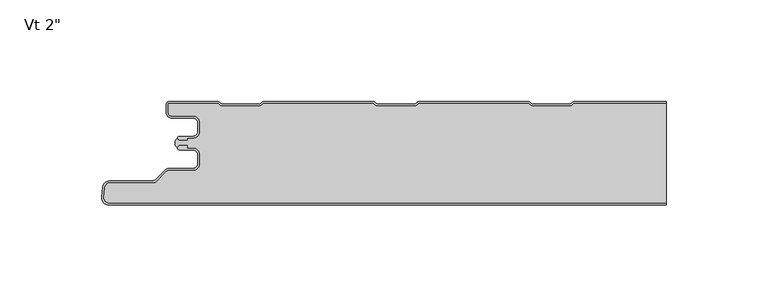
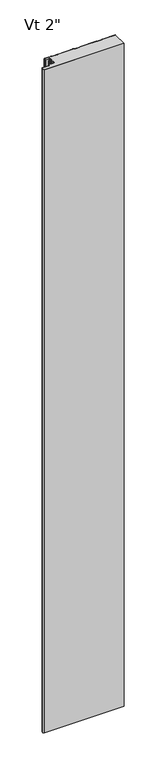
"""IFC4 building model written with IfcOpenShell, lengths in millimetres: plate geometry."""

from ifc_helpers import new_model, si_unit, point, frame, frame_2d, origin, origin_with_axes, place, context, project, spatial, polyline, circle_curve, trimmed, segment, composite_curve, outline, extrude, source, transform, mapped, element, save
from ifc_brep_helpers import plane_surface, cylinder_surface, revolved_surface, advanced_brep


def plate_294066a2(model_context):
    return source(origin(), model_context, "Body", "SolidModel", [
        advanced_brep(
        [(-119.3683, -22.4708624, 2400.0), (-118.167176, -21.3013877, 2400.0), (-114.4087826, -21.3013877, 2400.0), (-114.4087826, -22.6998666, 2400.0), (-111.7096715, -22.6998666, 2400.0), (-108.3596762, -26.0498619, 2400.0), (-108.3596762, -30.4498531, 2400.0), (-111.7096715, -33.7998484, 2400.0), (-123.5205606, -33.7998484, 2400.0), (-124.7226383, -34.2977653, 2400.0), (-130.2247094, -39.7998364, 2400.0), (-152.3198391, -39.7998364, 2400.0), (-154.9765707, -42.0184384, 2400.0), (-155.4125697, -47.0002592, 2400.0), (-152.8521175, -49.7945842, 2400.0), (120.3999998, -49.7999874, 2400.0), (120.3999998, -1.0063317, 2400.0), (75.179706, -1.0063317, 2400.0), (73.7940731, -2.2065624, 2400.0), (54.4189068, -2.2065624, 2400.0), (53.0332738, -1.0063317, 2400.0), (-1.0201416, -1.0063317, 2400.0), (-2.4057745, -2.2065624, 2400.0), (-21.7809408, -2.2065624, 2400.0), (-23.1665738, -1.0063317, 2400.0), (-77.2199892, -1.0063317, 2400.0), (-78.6056221, -2.2065624, 2400.0), (-97.9807884, -2.2065624, 2400.0), (-99.3664214, -1.0063317, 2400.0), (-123.8662504, -1.0063317, 2400.0), (-123.8662504, -5.2378707, 2400.0), (-122.0962562, -7.0078649, 2400.0), (-111.6762777, -7.0078649, 2400.0), (-108.3762818, -10.3078607, 2400.0), (-108.3762818, -14.707852, 2400.0), (-111.6762775, -18.0078476, 2400.0), (-114.3684873, -18.0078476, 2400.0), (-114.3684873, -19.0078422, 2400.0), (-118.368691, -19.0078422, 2400.0), (-119.3686882, -18.0078509, 2400.0), (-120.3999998, -19.0391626, 2400.0), (-120.3999998, -21.4391626, 2400.0), (-119.3683, -22.4708624, 0.0), (-120.3999998, -21.4391626, 0.0), (-120.3999998, -19.0391626, 0.0), (-119.3686882, -18.0078509, 0.0), (-118.368691, -19.0078422, 0.0), (-114.3684873, -19.0078422, 0.0), (-114.3684873, -18.0078476, 0.0), (-111.6762775, -18.0078476, 0.0), (-108.3762818, -14.707852, 0.0), (-108.3762818, -10.3078607, 0.0), (-111.6762777, -7.0078649, 0.0), (-122.0962562, -7.0078649, 0.0), (-123.8662504, -5.2378707, 0.0), (-123.8662504, -1.0063317, 0.0), (-99.3664214, -1.0063317, 0.0), (-97.9807884, -2.2065624, 0.0), (-78.6056221, -2.2065624, 0.0), (-77.2199892, -1.0063317, 0.0), (-23.1665738, -1.0063317, 0.0), (-21.7809408, -2.2065624, 0.0), (-2.4057745, -2.2065624, 0.0), (-1.0201416, -1.0063317, 0.0), (53.0332738, -1.0063317, 0.0), (54.4189068, -2.2065624, 0.0), (73.7940731, -2.2065624, 0.0), (75.179706, -1.0063317, 0.0), (120.3999998, -1.0063317, 0.0), (120.3999998, -49.7999874, 0.0), (-152.8521175, -49.7999874, 0.0), (-155.4125697, -47.0002592, 0.0), (-154.9765707, -42.0184384, 0.0), (-152.3198391, -39.7998364, 0.0), (-130.2247094, -39.7998364, 0.0), (-124.7226383, -34.2977653, 0.0), (-123.5205606, -33.7998484, 0.0), (-111.7096715, -33.7998484, 0.0), (-108.3596762, -30.4498531, 0.0), (-108.3596762, -26.0498619, 0.0), (-111.7096715, -22.6998666, 0.0), (-114.4087826, -22.6998666, 0.0), (-114.4087826, -21.3013877, 0.0), (-118.167176, -21.3013877, 0.0)],
        [
            (0, 1, circle_curve(frame((-118.1686906, -22.5013843, 2400.0), z_axis=(0.0, 0.0, -1.0), x_axis=(-1.0, 0.0, 0.0)), 1.1999976)),
            (1, 2),
            (2, 3),
            (3, 4),
            (4, 5, circle_curve(frame((-111.7096715, -26.0498619, 2400.0), z_axis=(0.0, 0.0, -1.0), x_axis=(-1.0, 0.0, 0.0)), 3.3499953)),
            (5, 6),
            (6, 7, circle_curve(frame((-111.7096715, -30.4498531, 2400.0), z_axis=(0.0, 0.0, -1.0), x_axis=(-1.0, 0.0, 0.0)), 3.3499953)),
            (7, 8),
            (8, 9, circle_curve(frame((-123.5205606, -35.499843, 2400.0), z_axis=(0.0, 0.0, 1.0), x_axis=(-1.0, 0.0, 0.0)), 1.6999946)),
            (9, 10),
            (10, 11),
            (11, 12, circle_curve(frame((-152.3198391, -42.499829, 2400.0), z_axis=(0.0, 0.0, 1.0), x_axis=(-1.0, 0.0, 0.0)), 2.6999926)),
            (12, 13),
            (13, 14, circle_curve(frame((-152.8521175, -47.2243449, 2400.0), z_axis=(0.0, 0.0, 1.0), x_axis=(-1.0, 0.0, 0.0)), 2.5702393)),
            (14, 15),
            (15, 16),
            (16, 17),
            (17, 18),
            (18, 19),
            (19, 20),
            (20, 21),
            (21, 22),
            (22, 23),
            (23, 24),
            (24, 25),
            (25, 26),
            (26, 27),
            (27, 28),
            (28, 29),
            (29, 30),
            (30, 31, circle_curve(frame((-122.0962562, -5.2378707, 2400.0), z_axis=(0.0, 0.0, 1.0), x_axis=(-1.0, 0.0, 0.0)), 1.7699942)),
            (31, 32),
            (32, 33, circle_curve(frame((-111.6762777, -10.3078607, 2400.0), z_axis=(0.0, 0.0, -1.0), x_axis=(-1.0, 0.0, 0.0)), 3.2999959)),
            (33, 34),
            (34, 35, circle_curve(frame((-111.6762775, -14.707852, 2400.0), z_axis=(0.0, 0.0, -1.0), x_axis=(-1.0, 0.0, 0.0)), 3.2999957)),
            (35, 36),
            (36, 37),
            (37, 38),
            (38, 39, circle_curve(frame((-118.368691, -18.007845, 2400.0), z_axis=(0.0, 0.0, -1.0), x_axis=(-1.0, 0.0, 0.0)), 0.9999972)),
            (39, 40),
            (40, 41),
            (41, 0),
            (42, 43),
            (43, 44),
            (44, 45),
            (45, 46, circle_curve(frame((-118.368691, -18.007845, 0.0), z_axis=(0.0, 0.0, 1.0), x_axis=(-1.0, 0.0, 0.0)), 0.9999972)),
            (46, 47),
            (47, 48),
            (48, 49),
            (49, 50, circle_curve(frame((-111.6762775, -14.707852, 0.0), z_axis=(0.0, 0.0, 1.0), x_axis=(-1.0, 0.0, 0.0)), 3.2999957)),
            (50, 51),
            (51, 52, circle_curve(frame((-111.6762777, -10.3078607, 0.0), z_axis=(0.0, 0.0, 1.0), x_axis=(-1.0, 0.0, 0.0)), 3.2999959)),
            (52, 53),
            (53, 54, circle_curve(frame((-122.0962562, -5.2378707, 0.0), z_axis=(0.0, 0.0, -1.0), x_axis=(-1.0, 0.0, 0.0)), 1.7699942)),
            (54, 55),
            (55, 56),
            (56, 57),
            (57, 58),
            (58, 59),
            (59, 60),
            (60, 61),
            (61, 62),
            (62, 63),
            (63, 64),
            (64, 65),
            (65, 66),
            (66, 67),
            (67, 68),
            (68, 69),
            (69, 70),
            (70, 71, circle_curve(frame((-152.8521175, -47.2243449, 0.0), z_axis=(0.0, 0.0, -1.0), x_axis=(-1.0, 0.0, 0.0)), 2.5702393)),
            (71, 72),
            (72, 73, circle_curve(frame((-152.3198391, -42.499829, 0.0), z_axis=(0.0, 0.0, -1.0), x_axis=(-1.0, 0.0, 0.0)), 2.6999926)),
            (73, 74),
            (74, 75),
            (75, 76, circle_curve(frame((-123.5205606, -35.499843, 0.0), z_axis=(0.0, 0.0, -1.0), x_axis=(-1.0, 0.0, 0.0)), 1.6999946)),
            (76, 77),
            (77, 78, circle_curve(frame((-111.7096715, -30.4498531, 0.0), z_axis=(0.0, 0.0, 1.0), x_axis=(-1.0, 0.0, 0.0)), 3.3499953)),
            (78, 79),
            (79, 80, circle_curve(frame((-111.7096715, -26.0498619, 0.0), z_axis=(0.0, 0.0, 1.0), x_axis=(-1.0, 0.0, 0.0)), 3.3499953)),
            (80, 81),
            (81, 82),
            (82, 83),
            (83, 42, circle_curve(frame((-118.1686906, -22.5013843, 0.0), z_axis=(0.0, 0.0, 1.0), x_axis=(-1.0, 0.0, 0.0)), 1.1999976)),
            (15, 69),
            (68, 16),
            (41, 43),
            (42, 0),
            (40, 44),
            (39, 45),
            (38, 46),
            (37, 47),
            (36, 48),
            (35, 49),
            (34, 50),
            (33, 51),
            (32, 52),
            (31, 53),
            (30, 54),
            (29, 55),
            (14, 70),
            (13, 71),
            (12, 72),
            (11, 73),
            (10, 74),
            (9, 75),
            (8, 76),
            (7, 77),
            (6, 78),
            (5, 79),
            (4, 80),
            (3, 81),
            (2, 82),
            (1, 83),
            (28, 56),
            (27, 57),
            (26, 58),
            (25, 59),
            (24, 60),
            (23, 61),
            (22, 62),
            (21, 63),
            (20, 64),
            (19, 65),
            (18, 66),
            (17, 67),
        ],
        [
            plane_surface(frame((184.4000002, -49.7999874, 2400.0), z_axis=(0.0, 0.0, 1.0), x_axis=(0.0, -1.0, 0.0))),
            plane_surface(frame((184.4000002, -49.7999874, 0.0), z_axis=(0.0, 0.0, -1.0), x_axis=(0.0, -1.0, 0.0))),
            plane_surface(frame((120.3999998, -60.7999874, 2400.0), z_axis=(1.0, 0.0, 0.0), x_axis=(0.0, 0.0, -1.0))),
            plane_surface(frame((-119.3683, -22.4708624, 2400.0), z_axis=(-0.707106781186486, -0.7071067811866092, 0.0), x_axis=(0.0, 0.0, -1.0))),
            plane_surface(frame((-120.3999998, -21.4391626, 2400.0), z_axis=(-1.0, 0.0, 0.0), x_axis=(0.0, 0.0, -1.0))),
            plane_surface(frame((-120.3999998, -19.0391626, 2400.0), z_axis=(-0.7071067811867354, 0.7071067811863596, 0.0), x_axis=(0.0, 0.0, -1.0))),
            revolved_surface(polyline([(-119.3686882, -18.007845, 0.0), (-119.3686882, -18.007845, 2400.0)]), (-118.368691, -18.007845, 2400.0), (0.0, 0.0, -1.0)),
            plane_surface(frame((-118.368691, -19.0078422, 2400.0), z_axis=(0.0, 1.0, 0.0), x_axis=(0.0, 0.0, -1.0))),
            plane_surface(frame((-114.3684873, -19.0078422, 2400.0), z_axis=(-1.0, 0.0, 0.0), x_axis=(0.0, 0.0, -1.0))),
            plane_surface(frame((-114.3684873, -18.0078476, 2400.0), z_axis=(0.0, 1.0, 0.0), x_axis=(0.0, 0.0, -1.0))),
            revolved_surface(polyline([(-114.9762732, -14.707852, 0.0), (-114.9762732, -14.707852, 2400.0)]), (-111.6762775, -14.707852, 2400.0), (0.0, 0.0, -1.0)),
            plane_surface(frame((-108.3762818, -14.707852, 2400.0), z_axis=(-1.0, 0.0, 0.0), x_axis=(0.0, 0.0, -1.0))),
            revolved_surface(polyline([(-114.9762736, -10.3078607, 0.0), (-114.9762736, -10.3078607, 2400.0)]), (-111.6762777, -10.3078607, 2400.0), (0.0, 0.0, -1.0)),
            plane_surface(frame((-111.6762777, -7.0078649, 2400.0), z_axis=(0.0, -1.0, 0.0), x_axis=(0.0, 0.0, -1.0))),
            cylinder_surface(frame((-122.0962562, -5.2378707, 2400.0), z_axis=(0.0, 0.0, 1.0), x_axis=(-1.0, 0.0, 0.0)), 1.7699942),
            plane_surface(frame((-123.8662504, -5.2378707, 2400.0), z_axis=(-1.0, 0.0, 0.0), x_axis=(0.0, 0.0, -1.0))),
            plane_surface(frame((440.7156221, -49.7999874, 2400.0), z_axis=(0.0, -1.0, 0.0), x_axis=(0.0, 0.0, -1.0))),
            cylinder_surface(frame((-152.8521175, -47.2243449, 2400.0), z_axis=(0.0, 0.0, 1.0), x_axis=(-1.0, 0.0, 0.0)), 2.5702393),
            plane_surface(frame((-155.4125697, -47.0002592, 2400.0), z_axis=(-0.9961921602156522, 0.0871847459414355, 0.0), x_axis=(0.0, 0.0, -1.0))),
            cylinder_surface(frame((-152.3198391, -42.499829, 2400.0), z_axis=(0.0, 0.0, 1.0), x_axis=(-1.0, 0.0, 0.0)), 2.6999926),
            plane_surface(frame((-152.3198391, -39.7998364, 2400.0), z_axis=(0.0, 1.0, 0.0), x_axis=(0.0, 0.0, -1.0))),
            plane_surface(frame((-130.2247094, -39.7998364, 2400.0), z_axis=(-0.7071067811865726, 0.7071067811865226, 0.0), x_axis=(0.0, 0.0, -1.0))),
            cylinder_surface(frame((-123.5205606, -35.499843, 2400.0), z_axis=(0.0, 0.0, 1.0), x_axis=(-1.0, 0.0, 0.0)), 1.6999946),
            plane_surface(frame((-123.5205606, -33.7998484, 2400.0), z_axis=(0.0, 1.0, 0.0), x_axis=(0.0, 0.0, -1.0))),
            revolved_surface(polyline([(-115.0596668, -30.4498531, 0.0), (-115.0596668, -30.4498531, 2400.0)]), (-111.7096715, -30.4498531, 2400.0), (0.0, 0.0, -1.0)),
            plane_surface(frame((-108.3596762, -30.4498531, 2400.0), z_axis=(-1.0, 0.0, 0.0), x_axis=(0.0, 0.0, -1.0))),
            revolved_surface(polyline([(-115.0596668, -26.0498619, 0.0), (-115.0596668, -26.0498619, 2400.0)]), (-111.7096715, -26.0498619, 2400.0), (0.0, 0.0, -1.0)),
            plane_surface(frame((-111.7096715, -22.6998666, 2400.0), z_axis=(0.0, -1.0, 0.0), x_axis=(0.0, 0.0, -1.0))),
            plane_surface(frame((-114.4087826, -22.6998666, 2400.0), z_axis=(-1.0, 0.0, 0.0), x_axis=(0.0, 0.0, -1.0))),
            plane_surface(frame((-114.4087826, -21.3013877, 2400.0), z_axis=(0.0, -1.0, 0.0), x_axis=(0.0, 0.0, -1.0))),
            revolved_surface(polyline([(-119.36868820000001, -22.5013843, 0.0), (-119.36868820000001, -22.5013843, 2400.0)]), (-118.1686906, -22.5013843, 2400.0), (0.0, 0.0, -1.0)),
            plane_surface(frame((-123.8662504, -1.0063317, 2400.0), z_axis=(0.0, 1.0, 0.0), x_axis=(0.0, 0.0, -1.0))),
            plane_surface(frame((-99.3664214, -1.0063317, 2400.0), z_axis=(0.6547276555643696, 0.7558648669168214, 0.0), x_axis=(0.0, 0.0, -1.0))),
            plane_surface(frame((-97.9807884, -2.2065624, 2400.0), z_axis=(0.0, 1.0, 0.0), x_axis=(0.0, 0.0, -1.0))),
            plane_surface(frame((-78.6056221, -2.2065624, 2400.0), z_axis=(-0.6547276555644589, 0.7558648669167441, 0.0), x_axis=(0.0, 0.0, -1.0))),
            plane_surface(frame((-77.2199892, -1.0063317, 2400.0), z_axis=(0.0, 1.0, 0.0), x_axis=(0.0, 0.0, -1.0))),
            plane_surface(frame((-23.1665738, -1.0063317, 2400.0), z_axis=(0.654727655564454, 0.7558648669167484, 0.0), x_axis=(0.0, 0.0, -1.0))),
            plane_surface(frame((-21.7809408, -2.2065624, 2400.0), z_axis=(0.0, 1.0, 0.0), x_axis=(0.0, 0.0, -1.0))),
            plane_surface(frame((-2.4057745, -2.2065624, 2400.0), z_axis=(-0.6547276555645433, 0.7558648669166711, 0.0), x_axis=(0.0, 0.0, -1.0))),
            plane_surface(frame((-1.0201416, -1.0063317, 2400.0), z_axis=(0.0, 1.0, 0.0), x_axis=(0.0, 0.0, -1.0))),
            plane_surface(frame((53.0332738, -1.0063317, 2400.0), z_axis=(0.6547276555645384, 0.7558648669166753, 0.0), x_axis=(0.0, 0.0, -1.0))),
            plane_surface(frame((54.4189068, -2.2065624, 2400.0), z_axis=(0.0, 1.0, 0.0), x_axis=(0.0, 0.0, -1.0))),
            plane_surface(frame((73.7940731, -2.2065624, 2400.0), z_axis=(-0.654727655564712, 0.755864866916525, 0.0), x_axis=(0.0, 0.0, -1.0))),
            plane_surface(frame((75.179706, -1.0063317, 2400.0), z_axis=(0.0, 1.0, 0.0), x_axis=(0.0, 0.0, -1.0))),
        ],
        [
            (0, [[1, 2, 3, 4, 5, 6, 7, 8, 9, 10, 11, 12, 13, 14, 15, 16, 17, 18, 19, 20, 21, 22, 23, 24, 25, 26, 27, 28, 29, 30, 31, 32, 33, 34, 35, 36, 37, 38, 39, 40, 41, 42]]),
            (1, [[43, 44, 45, 46, 47, 48, 49, 50, 51, 52, 53, 54, 55, 56, 57, 58, 59, 60, 61, 62, 63, 64, 65, 66, 67, 68, 69, 70, 71, 72, 73, 74, 75, 76, 77, 78, 79, 80, 81, 82, 83, 84]]),
            (2, [[85, -69, 86, -16]]),
            (3, [[87, -43, 88, -42]]),
            (4, [[89, -44, -87, -41]]),
            (5, [[90, -45, -89, -40]]),
            (6, [[91, -46, -90, -39]]),
            (7, [[92, -47, -91, -38]]),
            (8, [[93, -48, -92, -37]]),
            (9, [[94, -49, -93, -36]]),
            (10, [[95, -50, -94, -35]]),
            (11, [[96, -51, -95, -34]]),
            (12, [[97, -52, -96, -33]]),
            (13, [[98, -53, -97, -32]]),
            (14, [[99, -54, -98, -31]]),
            (15, [[100, -55, -99, -30]]),
            (16, [[-70, -85, -15, 101]]),
            (17, [[102, -71, -101, -14]]),
            (18, [[103, -72, -102, -13]]),
            (19, [[104, -73, -103, -12]]),
            (20, [[105, -74, -104, -11]]),
            (21, [[106, -75, -105, -10]]),
            (22, [[107, -76, -106, -9]]),
            (23, [[108, -77, -107, -8]]),
            (24, [[109, -78, -108, -7]]),
            (25, [[110, -79, -109, -6]]),
            (26, [[111, -80, -110, -5]]),
            (27, [[112, -81, -111, -4]]),
            (28, [[113, -82, -112, -3]]),
            (29, [[114, -83, -113, -2]]),
            (30, [[-88, -84, -114, -1]]),
            (31, [[115, -56, -100, -29]]),
            (32, [[116, -57, -115, -28]]),
            (33, [[117, -58, -116, -27]]),
            (34, [[118, -59, -117, -26]]),
            (35, [[119, -60, -118, -25]]),
            (36, [[120, -61, -119, -24]]),
            (37, [[121, -62, -120, -23]]),
            (38, [[122, -63, -121, -22]]),
            (39, [[123, -64, -122, -21]]),
            (40, [[124, -65, -123, -20]]),
            (41, [[125, -66, -124, -19]]),
            (42, [[126, -67, -125, -18]]),
            (43, [[-17, -86, -68, -126]]),
        ],
    ),
        advanced_brep(
        [(-118.368691, -17.0015034, 2400.0), (-119.3686883, -18.0015065, 2400.0), (-118.368691, -19.0014978, 2400.0), (-114.3684874, -19.0014979, 2400.0), (-114.3684874, -18.0015034, 2400.0), (-111.6762776, -18.0015034, 2400.0), (-108.3762819, -14.7015077, 2400.0), (-108.3762819, -10.3015164, 2400.0), (-111.6762774, -7.001521, 2400.0), (-122.0962563, -7.001521, 2400.0), (-123.8662505, -5.2315268, 2400.0), (-123.8662505, -0.9999791, 2400.0), (-99.3659738, -0.9999791, 2400.0), (-97.9803312, -2.2002182, 2400.0), (-78.6051649, -2.2002182, 2400.0), (-77.219532, -0.9999874, 2400.0), (-23.1661166, -0.9999874, 2400.0), (-21.7804836, -2.2002182, 2400.0), (-2.4053173, -2.2002182, 2400.0), (-1.0196844, -0.9999874, 2400.0), (53.033731, -0.9999874, 2400.0), (54.419364, -2.2002182, 2400.0), (73.7945303, -2.2002182, 2400.0), (75.1801632, -0.9999874, 2400.0), (120.3999998, -0.9999874, 2400.0), (120.3999998, 1.26e-05, 2400.0), (75.3293144, 1.26e-05, 2400.0), (74.4126975, -0.3417759, 2400.0), (73.4216499, -1.2002182, 2400.0), (54.7922444, -1.2002182, 2400.0), (53.8011968, -0.3417759, 2400.0), (52.8845799, 1.26e-05, 2400.0), (-0.8705332, 1.26e-05, 2400.0), (-1.7871501, -0.3417759, 2400.0), (-2.7781977, -1.2002182, 2400.0), (-21.4076032, -1.2002182, 2400.0), (-22.3986508, -0.3417759, 2400.0), (-23.3152677, 1.26e-05, 2400.0), (-77.0703808, 1.26e-05, 2400.0), (-77.9869977, -0.3417759, 2400.0), (-78.9780453, -1.2002182, 2400.0), (-97.6074508, -1.2002182, 2400.0), (-98.5984984, -0.3417759, 2400.0), (-99.5152067, 1.26e-05, 2400.0), (-123.4662543, 2.09e-05, 2400.0), (-124.8662505, -1.3999752, 2400.0), (-124.8662505, -5.2315268, 2400.0), (-122.0962563, -8.001521, 2400.0), (-111.6762774, -8.001521, 2400.0), (-109.3762819, -10.3015164, 2400.0), (-109.3762819, -14.7015077, 2400.0), (-111.6762776, -17.0015034, 2400.0), (-118.368691, -17.0015034, 0.0), (-111.6762776, -17.0015034, 0.0), (-109.3762819, -14.7015077, 0.0), (-109.3762819, -10.3015164, 0.0), (-111.6762774, -8.001521, 0.0), (-122.0962563, -8.001521, 0.0), (-124.8662505, -5.2315268, 0.0), (-124.8662505, -1.3999752, 0.0), (-123.4662543, 2.09e-05, 0.0), (-99.5151153, 2.09e-05, 0.0), (-98.5984984, -0.3417759, 0.0), (-97.6074508, -1.2002182, 0.0), (-78.9780453, -1.2002182, 0.0), (-77.9869977, -0.3417759, 0.0), (-77.0703808, 1.26e-05, 0.0), (-23.3152677, 1.26e-05, 0.0), (-22.3986508, -0.3417759, 0.0), (-21.4076032, -1.2002182, 0.0), (-2.7781977, -1.2002182, 0.0), (-1.7871501, -0.3417759, 0.0), (-0.8705332, 1.26e-05, 0.0), (52.8845799, 1.26e-05, 0.0), (53.8011968, -0.3417759, 0.0), (54.7922444, -1.2002182, 0.0), (73.4216499, -1.2002182, 0.0), (74.4126975, -0.3417759, 0.0), (75.3293144, 1.26e-05, 0.0), (120.3999998, 1.26e-05, 0.0), (120.3999998, -0.9999874, 0.0), (75.1801632, -0.9999874, 0.0), (73.7945303, -2.2002182, 0.0), (54.419364, -2.2002182, 0.0), (53.033731, -0.9999874, 0.0), (-1.0196844, -0.9999874, 0.0), (-2.4053173, -2.2002182, 0.0), (-21.7804836, -2.2002182, 0.0), (-23.1661166, -0.9999874, 0.0), (-77.219532, -0.9999874, 0.0), (-78.6051649, -2.2002182, 0.0), (-97.9803312, -2.2002182, 0.0), (-99.3659738, -0.9999791, 0.0), (-123.8662505, -0.9999791, 0.0), (-123.8662505, -5.2315268, 0.0), (-122.0962563, -7.001521, 0.0), (-111.6762774, -7.001521, 0.0), (-108.3762819, -10.3015164, 0.0), (-108.3762819, -14.7015077, 0.0), (-111.6762776, -18.0015034, 0.0), (-114.3684874, -18.0015034, 0.0), (-114.3684874, -19.0014979, 0.0), (-118.368691, -19.0014979, 0.0), (-119.3686882, -18.0015065, 0.0)],
        [
            (0, 1, circle_curve(frame((-118.368691, -18.0015006, 2400.0), z_axis=(0.0, 0.0, 1.0), x_axis=(1.0, 0.0, 0.0)), 0.9999973)),
            (1, 2, circle_curve(frame((-118.368691, -18.0015006, 2400.0), z_axis=(0.0, 0.0, 1.0), x_axis=(1.0, 0.0, 0.0)), 0.9999972)),
            (2, 3),
            (3, 4),
            (4, 5),
            (5, 6, circle_curve(frame((-111.6762776, -14.7015077, 2400.0), z_axis=(0.0, 0.0, 1.0), x_axis=(1.0, 0.0, 0.0)), 3.2999957)),
            (6, 7),
            (7, 8, circle_curve(frame((-111.6762774, -10.3015164, 2400.0), z_axis=(0.0, 0.0, 1.0), x_axis=(1.0, 0.0, 0.0)), 3.2999955)),
            (8, 9),
            (9, 10, circle_curve(frame((-122.0962563, -5.2315268, 2400.0), z_axis=(0.0, 0.0, -1.0), x_axis=(1.0, 0.0, 0.0)), 1.7699942)),
            (10, 11),
            (11, 12),
            (12, 13),
            (13, 14),
            (14, 15),
            (15, 16),
            (16, 17),
            (17, 18),
            (18, 19),
            (19, 20),
            (20, 21),
            (21, 22),
            (22, 23),
            (23, 24),
            (24, 25),
            (25, 26),
            (26, 27, circle_curve(frame((75.3293144, -1.3999846, 2400.0), z_axis=(0.0, 0.0, 1.0), x_axis=(1.0, 0.0, 0.0)), 1.3999972)),
            (27, 28),
            (28, 29),
            (29, 30),
            (30, 31, circle_curve(frame((52.8845799, -1.3999846, 2400.0), z_axis=(0.0, 0.0, 1.0), x_axis=(1.0, 0.0, 0.0)), 1.3999972)),
            (31, 32),
            (32, 33, circle_curve(frame((-0.8705332, -1.3999846, 2400.0), z_axis=(0.0, 0.0, 1.0), x_axis=(1.0, 0.0, 0.0)), 1.3999972)),
            (33, 34),
            (34, 35),
            (35, 36),
            (36, 37, circle_curve(frame((-23.3152677, -1.3999846, 2400.0), z_axis=(0.0, 0.0, 1.0), x_axis=(1.0, 0.0, 0.0)), 1.3999972)),
            (37, 38),
            (38, 39, circle_curve(frame((-77.0703808, -1.3999846, 2400.0), z_axis=(0.0, 0.0, 1.0), x_axis=(1.0, 0.0, 0.0)), 1.3999972)),
            (39, 40),
            (40, 41),
            (41, 42),
            (42, 43, circle_curve(frame((-99.5151153, -1.3999846, 2400.0), z_axis=(0.0, 0.0, 1.0), x_axis=(1.0, 0.0, 0.0)), 1.3999972)),
            (43, 44),
            (44, 45, circle_curve(frame((-123.4662543, -1.3999752, 2400.0), z_axis=(0.0, 0.0, 1.0), x_axis=(1.0, 0.0, 0.0)), 1.3999962)),
            (45, 46),
            (46, 47, circle_curve(frame((-122.0962563, -5.2315268, 2400.0), z_axis=(0.0, 0.0, 1.0), x_axis=(1.0, 0.0, 0.0)), 2.7699942)),
            (47, 48),
            (48, 49, circle_curve(frame((-111.6762774, -10.3015164, 2400.0), z_axis=(0.0, 0.0, -1.0), x_axis=(1.0, 0.0, 0.0)), 2.2999955)),
            (49, 50),
            (50, 51, circle_curve(frame((-111.6762776, -14.7015077, 2400.0), z_axis=(0.0, 0.0, -1.0), x_axis=(1.0, 0.0, 0.0)), 2.2999957)),
            (51, 0),
            (52, 53),
            (53, 54, circle_curve(frame((-111.6762776, -14.7015077, 0.0), z_axis=(0.0, 0.0, 1.0), x_axis=(1.0, 0.0, 0.0)), 2.2999957)),
            (54, 55),
            (55, 56, circle_curve(frame((-111.6762774, -10.3015164, 0.0), z_axis=(0.0, 0.0, 1.0), x_axis=(1.0, 0.0, 0.0)), 2.2999955)),
            (56, 57),
            (57, 58, circle_curve(frame((-122.0962563, -5.2315268, 0.0), z_axis=(0.0, 0.0, -1.0), x_axis=(1.0, 0.0, 0.0)), 2.7699942)),
            (58, 59),
            (59, 60, circle_curve(frame((-123.4662543, -1.3999752, 0.0), z_axis=(0.0, 0.0, -1.0), x_axis=(1.0, 0.0, 0.0)), 1.3999962)),
            (60, 61),
            (61, 62, circle_curve(frame((-99.5151153, -1.3999846, 0.0), z_axis=(0.0, 0.0, -1.0), x_axis=(1.0, 0.0, 0.0)), 1.3999972)),
            (62, 63),
            (63, 64),
            (64, 65),
            (65, 66, circle_curve(frame((-77.0703808, -1.3999846, 0.0), z_axis=(0.0, 0.0, -1.0), x_axis=(1.0, 0.0, 0.0)), 1.3999972)),
            (66, 67),
            (67, 68, circle_curve(frame((-23.3152677, -1.3999846, 0.0), z_axis=(0.0, 0.0, -1.0), x_axis=(1.0, 0.0, 0.0)), 1.3999972)),
            (68, 69),
            (69, 70),
            (70, 71),
            (71, 72, circle_curve(frame((-0.8705332, -1.3999846, 0.0), z_axis=(0.0, 0.0, -1.0), x_axis=(1.0, 0.0, 0.0)), 1.3999972)),
            (72, 73),
            (73, 74, circle_curve(frame((52.8845799, -1.3999846, 0.0), z_axis=(0.0, 0.0, -1.0), x_axis=(1.0, 0.0, 0.0)), 1.3999972)),
            (74, 75),
            (75, 76),
            (76, 77),
            (77, 78, circle_curve(frame((75.3293144, -1.3999846, 0.0), z_axis=(0.0, 0.0, -1.0), x_axis=(1.0, 0.0, 0.0)), 1.3999972)),
            (78, 79),
            (79, 80),
            (80, 81),
            (81, 82),
            (82, 83),
            (83, 84),
            (84, 85),
            (85, 86),
            (86, 87),
            (87, 88),
            (88, 89),
            (89, 90),
            (90, 91),
            (91, 92),
            (92, 93),
            (93, 94),
            (94, 95, circle_curve(frame((-122.0962563, -5.2315268, 0.0), z_axis=(0.0, 0.0, 1.0), x_axis=(1.0, 0.0, 0.0)), 1.7699942)),
            (95, 96),
            (96, 97, circle_curve(frame((-111.6762774, -10.3015164, 0.0), z_axis=(0.0, 0.0, -1.0), x_axis=(1.0, 0.0, 0.0)), 3.2999955)),
            (97, 98),
            (98, 99, circle_curve(frame((-111.6762776, -14.7015077, 0.0), z_axis=(0.0, 0.0, -1.0), x_axis=(1.0, 0.0, 0.0)), 3.2999957)),
            (99, 100),
            (100, 101),
            (101, 102),
            (102, 103, circle_curve(frame((-118.368691, -18.0015006, 0.0), z_axis=(0.0, 0.0, -1.0), x_axis=(1.0, 0.0, 0.0)), 0.9999972)),
            (103, 52, circle_curve(frame((-118.368691, -18.0015006, 0.0), z_axis=(0.0, 0.0, -1.0), x_axis=(1.0, 0.0, 0.0)), 0.9999973)),
            (24, 80),
            (79, 25),
            (51, 53),
            (52, 0),
            (50, 54),
            (49, 55),
            (48, 56),
            (47, 57),
            (46, 58),
            (45, 59),
            (44, 60),
            (43, 61),
            (78, 26),
            (42, 62),
            (41, 63),
            (40, 64),
            (38, 66),
            (65, 39),
            (36, 68),
            (67, 37),
            (77, 27),
            (76, 28),
            (31, 73),
            (72, 32),
            (71, 33),
            (34, 70),
            (69, 35),
            (30, 74),
            (29, 75),
            (2, 102),
            (101, 3),
            (1, 103),
            (23, 81),
            (22, 82),
            (21, 83),
            (20, 84),
            (19, 85),
            (18, 86),
            (17, 87),
            (16, 88),
            (15, 89),
            (14, 90),
            (13, 91),
            (12, 92),
            (11, 93),
            (10, 94),
            (9, 95),
            (8, 96),
            (7, 97),
            (6, 98),
            (5, 99),
            (4, 100),
        ],
        [
            plane_surface(frame((184.4000002, 1.26e-05, 2400.0), z_axis=(0.0, 0.0, 1.0), x_axis=(0.0, 1.0, 0.0))),
            plane_surface(frame((184.4000002, 1.26e-05, 0.0), z_axis=(0.0, 0.0, -1.0), x_axis=(0.0, 1.0, 0.0))),
            plane_surface(frame((120.3999998, -60.7999874, 2400.0), z_axis=(1.0, 0.0, 0.0), x_axis=(0.0, 0.0, -1.0))),
            plane_surface(frame((-118.368691, -17.0015034, 2400.0), z_axis=(0.0, 1.0, 0.0), x_axis=(0.0, 0.0, -1.0))),
            revolved_surface(polyline([(-109.37628190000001, -14.7015077, 0.0), (-109.37628190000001, -14.7015077, 2400.0)]), (-111.6762776, -14.7015077, 2400.0), (0.0, 0.0, -1.0)),
            plane_surface(frame((-109.3762819, -14.7015077, 2400.0), z_axis=(-1.0, 0.0, 0.0), x_axis=(0.0, 0.0, -1.0))),
            revolved_surface(polyline([(-109.37628190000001, -10.3015164, 0.0), (-109.37628190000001, -10.3015164, 2400.0)]), (-111.6762774, -10.3015164, 2400.0), (0.0, 0.0, -1.0)),
            plane_surface(frame((-111.6762774, -8.001521, 2400.0), z_axis=(0.0, -1.0, 0.0), x_axis=(0.0, 0.0, -1.0))),
            cylinder_surface(frame((-122.0962563, -5.2315268, 2400.0), z_axis=(0.0, 0.0, 1.0), x_axis=(1.0, 0.0, 0.0)), 2.7699942),
            plane_surface(frame((-124.8662505, -5.2315268, 2400.0), z_axis=(-1.0, 0.0, 0.0), x_axis=(0.0, 0.0, -1.0))),
            cylinder_surface(frame((-123.4662543, -1.3999752, 2400.0), z_axis=(0.0, 0.0, 1.0), x_axis=(1.0, 0.0, 0.0)), 1.3999962),
            plane_surface(frame((-123.4662543, 2.09e-05, 2400.0), z_axis=(0.0, 1.0, 0.0), x_axis=(0.0, 0.0, -1.0))),
            plane_surface(frame((75.3293144, 1.26e-05, 2400.0), z_axis=(0.0, 1.0, 0.0), x_axis=(0.0, 0.0, -1.0))),
            cylinder_surface(frame((-99.5151153, -1.3999846, 2400.0), z_axis=(0.0, 0.0, 1.0), x_axis=(1.0, 0.0, 0.0)), 1.3999972),
            plane_surface(frame((-98.5984984, -0.3417759, 2400.0), z_axis=(0.6547276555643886, 0.755864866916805, 0.0), x_axis=(0.0, 0.0, -1.0))),
            plane_surface(frame((-88.2927481, -1.2002182, 2400.0), z_axis=(0.0, 1.0, 0.0), x_axis=(0.0, 0.0, -1.0))),
            cylinder_surface(frame((-77.0703808, -1.3999846, 2400.0), z_axis=(0.0, 0.0, 1.0), x_axis=(1.0, 0.0, 0.0)), 1.3999972),
            plane_surface(frame((-78.9780453, -1.2002182, 2400.0), z_axis=(-0.6547276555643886, 0.755864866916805, 0.0), x_axis=(0.0, 0.0, -1.0))),
            cylinder_surface(frame((-23.3152677, -1.3999846, 2400.0), z_axis=(0.0, 0.0, 1.0), x_axis=(1.0, 0.0, 0.0)), 1.3999972),
            cylinder_surface(frame((75.3293144, -1.3999846, 2400.0), z_axis=(0.0, 0.0, 1.0), x_axis=(1.0, 0.0, 0.0)), 1.3999972),
            plane_surface(frame((73.4216499, -1.2002182, 2400.0), z_axis=(-0.6547276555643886, 0.755864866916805, 0.0), x_axis=(0.0, 0.0, -1.0))),
            plane_surface(frame((-0.8705332, 1.26e-05, 2400.0), z_axis=(0.0, 1.0, 0.0), x_axis=(0.0, 0.0, -1.0))),
            cylinder_surface(frame((-0.8705332, -1.3999846, 2400.0), z_axis=(0.0, 0.0, 1.0), x_axis=(1.0, 0.0, 0.0)), 1.3999972),
            plane_surface(frame((-12.0929005, -1.2002182, 2400.0), z_axis=(0.0, 1.0, 0.0), x_axis=(0.0, 0.0, -1.0))),
            plane_surface(frame((-22.3986508, -0.3417759, 2400.0), z_axis=(0.6547276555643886, 0.755864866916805, 0.0), x_axis=(0.0, 0.0, -1.0))),
            plane_surface(frame((-2.7781977, -1.2002182, 2400.0), z_axis=(-0.6547276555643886, 0.755864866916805, 0.0), x_axis=(0.0, 0.0, -1.0))),
            plane_surface(frame((-77.0703808, 1.26e-05, 2400.0), z_axis=(0.0, 1.0, 0.0), x_axis=(0.0, 0.0, -1.0))),
            cylinder_surface(frame((52.8845799, -1.3999846, 2400.0), z_axis=(0.0, 0.0, 1.0), x_axis=(1.0, 0.0, 0.0)), 1.3999972),
            plane_surface(frame((53.8011968, -0.3417759, 2400.0), z_axis=(0.6547276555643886, 0.755864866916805, 0.0), x_axis=(0.0, 0.0, -1.0))),
            plane_surface(frame((64.1069471, -1.2002182, 2400.0), z_axis=(0.0, 1.0, 0.0), x_axis=(0.0, 0.0, -1.0))),
            plane_surface(frame((-114.3684874, -19.0014979, 2400.0), z_axis=(0.0, -1.0, 0.0), x_axis=(0.0, 0.0, -1.0))),
            cylinder_surface(frame((-118.368691, -18.0015006, 2400.0), z_axis=(0.0, 0.0, 1.0), x_axis=(1.0, 0.0, 0.0)), 0.9999972),
            cylinder_surface(frame((-118.368691, -18.0015006, 2400.0), z_axis=(0.0, 0.0, 1.0), x_axis=(1.0, 0.0, 0.0)), 0.9999973),
            plane_surface(frame((129.2335786, -0.9999874, 2400.0), z_axis=(0.0, -1.0, 0.0), x_axis=(0.0, 0.0, -1.0))),
            plane_surface(frame((75.1801632, -0.9999874, 2400.0), z_axis=(0.6547276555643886, -0.755864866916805, 0.0), x_axis=(0.0, 0.0, -1.0))),
            plane_surface(frame((73.7945303, -2.2002182, 2400.0), z_axis=(0.0, -1.0, 0.0), x_axis=(0.0, 0.0, -1.0))),
            plane_surface(frame((54.419364, -2.2002182, 2400.0), z_axis=(-0.6547276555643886, -0.755864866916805, 0.0), x_axis=(0.0, 0.0, -1.0))),
            plane_surface(frame((53.033731, -0.9999874, 2400.0), z_axis=(0.0, -1.0, 0.0), x_axis=(0.0, 0.0, -1.0))),
            plane_surface(frame((-1.0196844, -0.9999874, 2400.0), z_axis=(0.6547276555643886, -0.755864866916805, 0.0), x_axis=(0.0, 0.0, -1.0))),
            plane_surface(frame((-2.4053173, -2.2002182, 2400.0), z_axis=(0.0, -1.0, 0.0), x_axis=(0.0, 0.0, -1.0))),
            plane_surface(frame((-21.7804836, -2.2002182, 2400.0), z_axis=(-0.6547276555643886, -0.755864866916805, 0.0), x_axis=(0.0, 0.0, -1.0))),
            plane_surface(frame((-23.1661166, -0.9999874, 2400.0), z_axis=(0.0, -1.0, 0.0), x_axis=(0.0, 0.0, -1.0))),
            plane_surface(frame((-77.219532, -0.9999874, 2400.0), z_axis=(0.6547276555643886, -0.755864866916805, 0.0), x_axis=(0.0, 0.0, -1.0))),
            plane_surface(frame((-78.6051649, -2.2002182, 2400.0), z_axis=(0.0, -1.0, 0.0), x_axis=(0.0, 0.0, -1.0))),
            plane_surface(frame((-97.9803312, -2.2002182, 2400.0), z_axis=(-0.6547276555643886, -0.755864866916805, 0.0), x_axis=(0.0, 0.0, -1.0))),
            plane_surface(frame((-99.3659738, -0.9999791, 2400.0), z_axis=(0.0, -1.0, 0.0), x_axis=(0.0, 0.0, -1.0))),
            plane_surface(frame((-123.8662505, -0.9999791, 2400.0), z_axis=(1.0, 0.0, 0.0), x_axis=(0.0, 0.0, -1.0))),
            revolved_surface(polyline([(-120.3262621, -5.2315268, 0.0), (-120.3262621, -5.2315268, 2400.0)]), (-122.0962563, -5.2315268, 2400.0), (0.0, 0.0, -1.0)),
            plane_surface(frame((-122.0962563, -7.001521, 2400.0), z_axis=(0.0, 1.0, 0.0), x_axis=(0.0, 0.0, -1.0))),
            cylinder_surface(frame((-111.6762774, -10.3015164, 2400.0), z_axis=(0.0, 0.0, 1.0), x_axis=(1.0, 0.0, 0.0)), 3.2999955),
            plane_surface(frame((-108.3762819, -10.3015164, 2400.0), z_axis=(1.0, 0.0, 0.0), x_axis=(0.0, 0.0, -1.0))),
            cylinder_surface(frame((-111.6762776, -14.7015077, 2400.0), z_axis=(0.0, 0.0, 1.0), x_axis=(1.0, 0.0, 0.0)), 3.2999957),
            plane_surface(frame((-111.6762776, -18.0015034, 2400.0), z_axis=(0.0, -1.0, 0.0), x_axis=(0.0, 0.0, -1.0))),
            plane_surface(frame((-114.3684874, -18.0015034, 2400.0), z_axis=(1.0, 0.0, 0.0), x_axis=(0.0, 0.0, -1.0))),
        ],
        [
            (0, [[1, 2, 3, 4, 5, 6, 7, 8, 9, 10, 11, 12, 13, 14, 15, 16, 17, 18, 19, 20, 21, 22, 23, 24, 25, 26, 27, 28, 29, 30, 31, 32, 33, 34, 35, 36, 37, 38, 39, 40, 41, 42, 43, 44, 45, 46, 47, 48, 49, 50, 51, 52]]),
            (1, [[53, 54, 55, 56, 57, 58, 59, 60, 61, 62, 63, 64, 65, 66, 67, 68, 69, 70, 71, 72, 73, 74, 75, 76, 77, 78, 79, 80, 81, 82, 83, 84, 85, 86, 87, 88, 89, 90, 91, 92, 93, 94, 95, 96, 97, 98, 99, 100, 101, 102, 103, 104]]),
            (2, [[105, -80, 106, -25]]),
            (3, [[107, -53, 108, -52]]),
            (4, [[109, -54, -107, -51]]),
            (5, [[110, -55, -109, -50]]),
            (6, [[111, -56, -110, -49]]),
            (7, [[112, -57, -111, -48]]),
            (8, [[113, -58, -112, -47]]),
            (9, [[114, -59, -113, -46]]),
            (10, [[115, -60, -114, -45]]),
            (11, [[116, -61, -115, -44]]),
            (12, [[-26, -106, -79, 117]]),
            (13, [[118, -62, -116, -43]]),
            (14, [[119, -63, -118, -42]]),
            (15, [[120, -64, -119, -41]]),
            (16, [[121, -66, 122, -39]]),
            (17, [[-122, -65, -120, -40]]),
            (18, [[123, -68, 124, -37]]),
            (19, [[-117, -78, 125, -27]]),
            (20, [[-125, -77, 126, -28]]),
            (21, [[127, -73, 128, -32]]),
            (22, [[-128, -72, 129, -33]]),
            (23, [[130, -70, 131, -35]]),
            (24, [[-131, -69, -123, -36]]),
            (25, [[-129, -71, -130, -34]]),
            (26, [[-124, -67, -121, -38]]),
            (27, [[132, -74, -127, -31]]),
            (28, [[133, -75, -132, -30]]),
            (29, [[-126, -76, -133, -29]]),
            (30, [[134, -102, 135, -3]]),
            (31, [[136, -103, -134, -2]]),
            (32, [[-108, -104, -136, -1]]),
            (33, [[-81, -105, -24, 137]]),
            (34, [[138, -82, -137, -23]]),
            (35, [[139, -83, -138, -22]]),
            (36, [[140, -84, -139, -21]]),
            (37, [[141, -85, -140, -20]]),
            (38, [[142, -86, -141, -19]]),
            (39, [[143, -87, -142, -18]]),
            (40, [[144, -88, -143, -17]]),
            (41, [[145, -89, -144, -16]]),
            (42, [[146, -90, -145, -15]]),
            (43, [[147, -91, -146, -14]]),
            (44, [[148, -92, -147, -13]]),
            (45, [[149, -93, -148, -12]]),
            (46, [[150, -94, -149, -11]]),
            (47, [[151, -95, -150, -10]]),
            (48, [[152, -96, -151, -9]]),
            (49, [[153, -97, -152, -8]]),
            (50, [[154, -98, -153, -7]]),
            (51, [[155, -99, -154, -6]]),
            (52, [[156, -100, -155, -5]]),
            (53, [[-135, -101, -156, -4]]),
        ],
    ),
        extrude(outline(composite_curve([segment(polyline([(-156.4087505, -46.9183478), (-155.9690674, -41.8944311)]), True, "CONTINUOUS"), segment(trimmed(circle_curve(frame_2d((-152.3198391, -42.5052322)), 3.6999926), [point((-155.9690674, -41.8944311))], [point((-152.3198391, -38.8052396))], False, "CARTESIAN"), True, "CONTINUOUS"), segment(polyline([(-152.3198391, -38.8052396), (-131.1773995, -38.8052396)]), True, "CONTINUOUS"), segment(trimmed(circle_curve(frame_2d((-131.1773995, -37.5052422)), 1.2999974), [point((-131.1773995, -38.8052396))], [point((-130.2581626, -38.4244792))], True, "CARTESIAN"), True, "CONTINUOUS"), segment(polyline([(-130.2581626, -38.4244792), (-125.4297451, -33.5960618)]), True, "CONTINUOUS"), segment(trimmed(circle_curve(frame_2d((-123.5205606, -35.5052462)), 2.6999946), [point((-125.4297451, -33.5960618))], [point((-123.5205606, -32.8052516))], False, "CARTESIAN"), True, "CONTINUOUS"), segment(polyline([(-123.5205606, -32.8052516), (-111.7096715, -32.8052516)]), True, "CONTINUOUS"), segment(trimmed(circle_curve(frame_2d((-111.7096715, -30.4552563)), 2.3499953), [point((-111.7096715, -32.8052516))], [point((-109.3596762, -30.4552563))], True, "CARTESIAN"), True, "CONTINUOUS"), segment(polyline([(-109.3596762, -30.4552563), (-109.3596762, -26.0552651)]), True, "CONTINUOUS"), segment(trimmed(circle_curve(frame_2d((-111.7096715, -26.0552651)), 2.3499953), [point((-109.3596762, -26.0552651))], [point((-111.7096715, -23.7052698))], True, "CARTESIAN"), True, "CONTINUOUS"), segment(polyline([(-111.7096715, -23.7052698), (-118.2289777, -23.7052698)]), True, "CONTINUOUS"), segment(trimmed(circle_curve(frame_2d((-118.1686906, -22.5067876)), 1.1999976), [point((-118.2289777, -23.7052698))], [point((-119.3683, -22.4762657))], False, "CARTESIAN"), True, "CONTINUOUS"), segment(trimmed(circle_curve(frame_2d((-118.1686906, -22.5067876)), 1.1999976), [point((-119.3683, -22.4762657))], [point((-118.167176, -21.306791))], False, "CARTESIAN"), True, "CONTINUOUS"), segment(polyline([(-118.167176, -21.306791), (-114.4087826, -21.306791), (-114.4087826, -22.7052698), (-111.7096715, -22.7052698)]), True, "CONTINUOUS"), segment(trimmed(circle_curve(frame_2d((-111.7096715, -26.0552651)), 3.3499953), [point((-111.7096715, -22.7052698))], [point((-108.3596762, -26.0552651))], False, "CARTESIAN"), True, "CONTINUOUS"), segment(polyline([(-108.3596762, -26.0552651), (-108.3596762, -30.4552563)]), True, "CONTINUOUS"), segment(trimmed(circle_curve(frame_2d((-111.7096715, -30.4552563)), 3.3499953), [point((-108.3596762, -30.4552563))], [point((-111.7096715, -33.8052516))], False, "CARTESIAN"), True, "CONTINUOUS"), segment(polyline([(-111.7096715, -33.8052516), (-123.5205606, -33.8052516)]), True, "CONTINUOUS"), segment(trimmed(circle_curve(frame_2d((-123.5205606, -35.5052462)), 1.6999946), [point((-123.5205606, -33.8052516))], [point((-124.7226383, -34.3031685))], True, "CARTESIAN"), True, "CONTINUOUS"), segment(polyline([(-124.7226383, -34.3031685), (-130.2247094, -39.8052396), (-152.3198391, -39.8052396)]), True, "CONTINUOUS"), segment(trimmed(circle_curve(frame_2d((-152.3198391, -42.5052322)), 2.6999926), [point((-152.3198391, -39.8052396))], [point((-154.9765707, -42.0238416))], True, "CARTESIAN"), True, "CONTINUOUS"), segment(polyline([(-154.9765707, -42.0238416), (-155.4125697, -47.0056625)]), True, "CONTINUOUS"), segment(trimmed(circle_curve(frame_2d((-152.8521175, -47.2297482)), 2.5702393), [point((-155.4125697, -47.0056625))], [point((-152.9094458, -49.799348))], True, "CARTESIAN"), True, "CONTINUOUS"), segment(polyline([(-152.9094458, -49.799348), (120.3999998, -49.799348), (120.3999998, -50.7996828), (-152.8521038, -50.7998575)]), True, "CONTINUOUS"), segment(trimmed(circle_curve(frame_2d((-152.8521061, -47.2296182)), 3.5702393), [point((-152.8521038, -50.7998575))], [point((-156.4087505, -46.9183478))], False, "CARTESIAN"), True, "CONTINUOUS")], self_intersect=False)), origin_with_axes(), (0.0, 0.0, 1.0), 2400.0),
    ])


if __name__ == "__main__":
    model = new_model("IFC4")
    model_context = context("Model", 3, world=origin())
    ifc_project = project(units=[si_unit("LENGTHUNIT", "METRE", prefix="MILLI")], contexts=[model_context])
    site = spatial("IfcSite", under=ifc_project)
    building = spatial("IfcBuilding", under=site)
    placement = place(None, origin())
    plate_shape = plate_294066a2(model_context)
    element("IfcPlate", 1, ObjectType="KIP-24-Karrier-KP-R19-CP-Vt-FL3-8in_SL : Vt 2\"", at=placement, inside=building, context=model_context, shape_type="MappedRepresentation", body=[
        mapped(plate_shape, transform((0.0, 0.0, 0.0), x_axis=(1.0, 0.0, 0.0), y_axis=(0.0, 1.0, 0.0), z_axis=(0.0, 0.0, 1.0))),
    ])
    save(model, "model.ifc")
